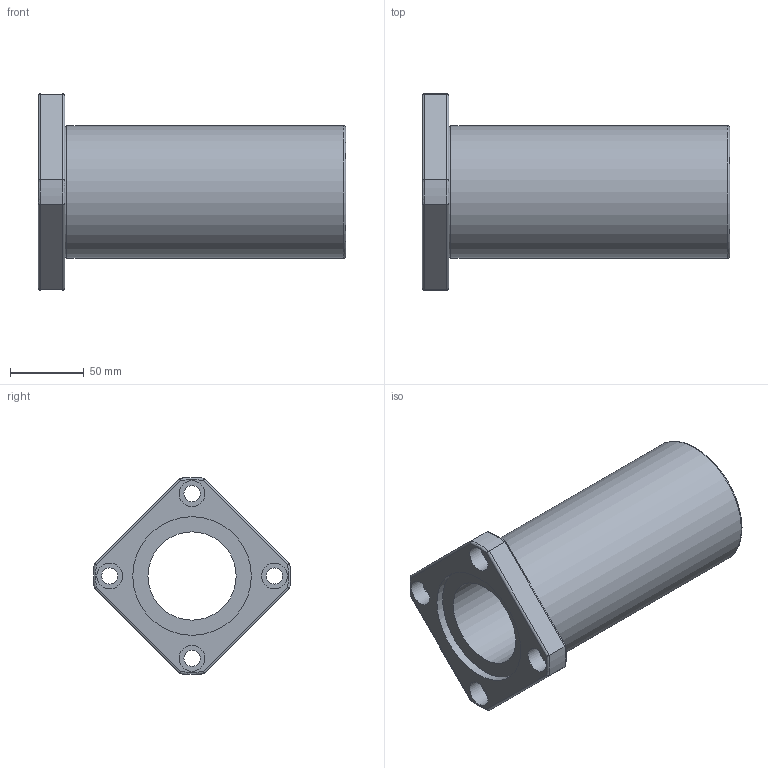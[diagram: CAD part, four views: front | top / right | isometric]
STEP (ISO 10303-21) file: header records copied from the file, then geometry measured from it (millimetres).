
FILE_DESCRIPTION( ( 'Unknown' ), '1' );
FILE_NAME( 'D:/累诀/己绕皋墨飘肺葱胶/11-04-06_档搁累己/01_府聪绢何教/LMK L/LMK 60L.stp', 'Unknown', ( 'Unknown' ), ( 'Unknown' ), 'PSStep 11.0', 'Unknown', ' ' );
FILE_SCHEMA( ( 'AUTOMOTIVE_DESIGN { 1 0 10303 214 1 1 1 1 }' ) );
Length unit declared in the file: millimetre
Products named in the file (1): 1
Bounding box: 209 x 133.94 x 133.88 mm (x, y, z)
Volume: 782773.3 mm3; surface area: 119720.5 mm2
Topology: 1 solids, 1 shells, 48 faces, 105 edges, 67 vertices
Faces by surface type: cylinder 25, plane 14, torus 9
Full cylindrical faces by diameter (mm): 11 x4, 17.5 x4, 60 x1, 80.6 x2, 89 x1, 90 x1
Entity records: 1782 total; most frequent: CARTESIAN_POINT 375, DIRECTION 216, ORIENTED_EDGE 174, AXIS2_PLACEMENT_3D 96, EDGE_CURVE 87, EDGE_LOOP 80, VERTEX_POINT 63, FACE_OUTER_BOUND 62
